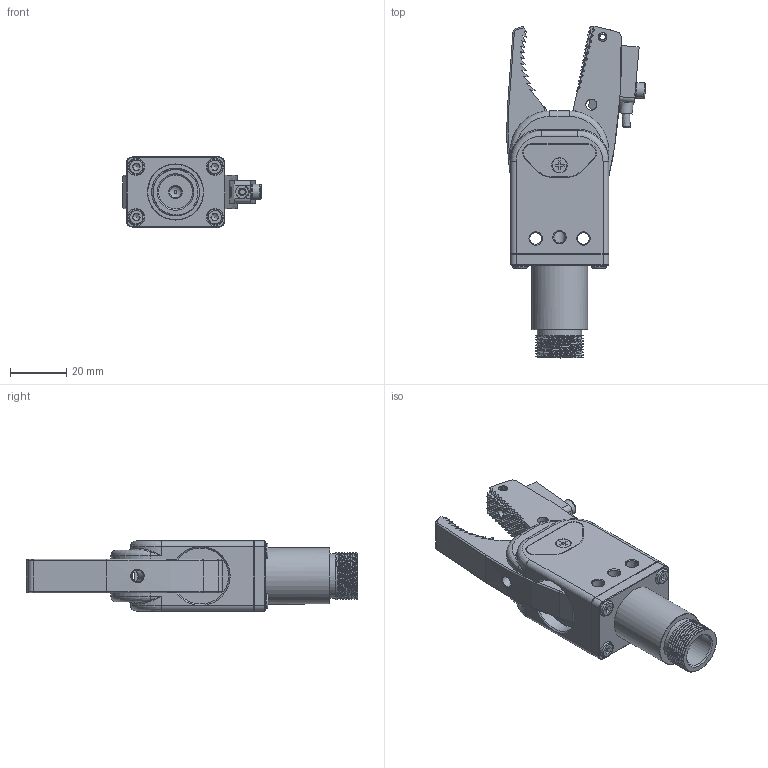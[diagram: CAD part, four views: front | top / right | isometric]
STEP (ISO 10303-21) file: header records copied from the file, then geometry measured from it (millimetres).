
FILE_DESCRIPTION(/* description */ (''),/* implementation_level */ '2;1');
FILE_NAME(/* name */ '_model1.stp',/* time_stamp */ '2023-03-08T16:15:49+08:00',/* author */ (''),/* organization */ (''),/* preprocessor_version */ 'ST-DEVELOPER v16',/* originating_system */ 'SIEMENS PLM Software NX 10.0',/* authorisation */ '');
FILE_SCHEMA (('AUTOMOTIVE_DESIGN { 1 0 10303 214 3 1 1 1 }'));
Products named in the file (1): Admi115498B06jep
Bounding box: 49.43 x 118.39 x 25 mm (x, y, z)
Volume: 53432.3 mm3; surface area: 23719.1 mm2
Topology: 5 solids, 20 shells, 1069 faces, 2836 edges, 1849 vertices
Faces by surface type: plane 728, cylinder 160, cone 112, bspline 36, revolution 33
Full cylindrical faces by diameter (mm): 0.8 x1, 2.5 x4, 3 x29, 3.2 x2, 3.3 x1, 3.4 x5, 3.541 x4, 4 x9, 4.2 x7, 4.3 x1, 4.5 x1, 5 x4, 5.2 x1, 5.5 x6, 6 x4, 7 x1, 7.8 x2, 12 x1, 15.8 x1, 20 x1
Entity records: 54676 total; most frequent: CARTESIAN_POINT 22305, ORIENTED_EDGE 4992, DIRECTION 4892, EDGE_CURVE 2496, LINE 1819, VECTOR 1819, VERTEX_POINT 1720, AXIS2_PLACEMENT_3D 1520
